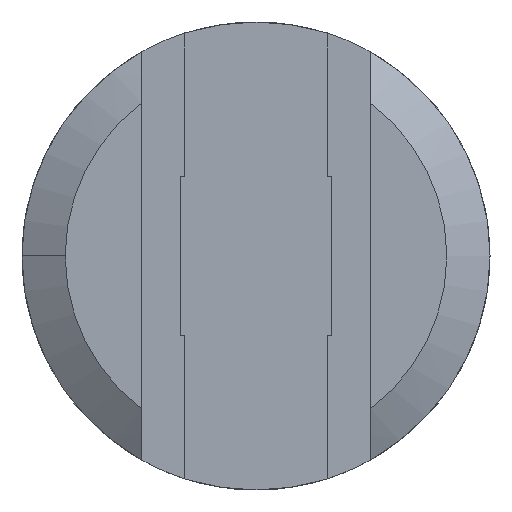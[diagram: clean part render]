
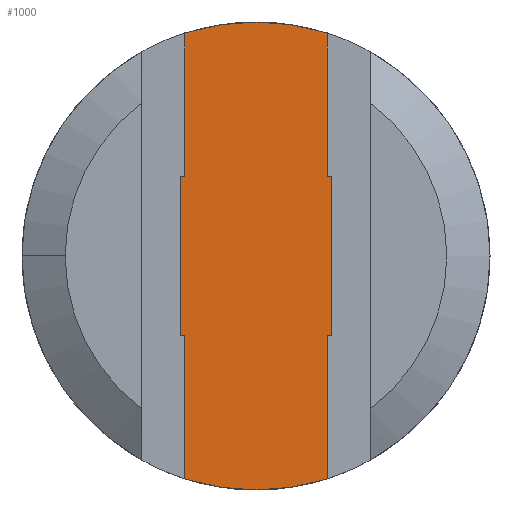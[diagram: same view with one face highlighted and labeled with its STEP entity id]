
A CAD part, top view. The second image highlights one B-rep face of the part: STEP entity #1000.
In plain terms, the highlighted planar face has unit normal (0, 0, 1).
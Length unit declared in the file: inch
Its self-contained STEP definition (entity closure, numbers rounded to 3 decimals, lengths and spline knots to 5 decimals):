
#86=CARTESIAN_POINT('',(0.,0.,0.3));
#87=DIRECTION('',(0.,0.,1.));
#88=DIRECTION('',(0.304,0.953,0.));
#89=AXIS2_PLACEMENT_3D('',#86,#87,#88);
#190=CARTESIAN_POINT('',(0.,0.,0.3));
#191=DIRECTION('',(0.,0.,1.));
#192=DIRECTION('',(-0.304,-0.953,0.));
#193=AXIS2_PLACEMENT_3D('',#190,#191,#192);
#269=DIRECTION('',(0.,1.,0.));
#270=VECTOR('',#269,0.49913);
#271=CARTESIAN_POINT('',(0.24675,0.275,
0.3));
#272=LINE('',#271,#270);
#273=DIRECTION('',(-1.,0.,0.));
#274=VECTOR('',#273,0.01625);
#275=CARTESIAN_POINT('',(0.263,0.275,0.3));
#276=LINE('',#275,#274);
#277=DIRECTION('',(0.,1.,0.));
#278=VECTOR('',#277,0.55);
#279=CARTESIAN_POINT('',(0.263,-0.275,0.3));
#280=LINE('',#279,#278);
#281=DIRECTION('',(1.,0.,0.));
#282=VECTOR('',#281,0.01625);
#283=CARTESIAN_POINT('',(0.24675,-0.275,
0.3));
#284=LINE('',#283,#282);
#285=DIRECTION('',(0.,1.,0.));
#286=VECTOR('',#285,0.49913);
#287=CARTESIAN_POINT('',(0.24675,-0.77413,
0.3));
#288=LINE('',#287,#286);
#289=DIRECTION('',(0.,1.,0.));
#290=VECTOR('',#289,0.55);
#291=CARTESIAN_POINT('',(-0.263,-0.275,0.3));
#292=LINE('',#291,#290);
#293=DIRECTION('',(0.,1.,0.));
#294=VECTOR('',#293,0.49913);
#295=CARTESIAN_POINT('',(-0.24675,0.275,
0.3));
#296=LINE('',#295,#294);
#331=DIRECTION('',(1.,0.,0.));
#332=VECTOR('',#331,0.01625);
#333=CARTESIAN_POINT('',(-0.263,0.275,0.3));
#334=LINE('',#333,#332);
#343=DIRECTION('',(-1.,0.,0.));
#344=VECTOR('',#343,0.01625);
#345=CARTESIAN_POINT('',(-0.24675,-0.275,
0.3));
#346=LINE('',#345,#344);
#351=DIRECTION('',(0.,1.,0.));
#352=VECTOR('',#351,0.49913);
#353=CARTESIAN_POINT('',(-0.24675,-0.77413,
0.3));
#354=LINE('',#353,#352);
#555=CARTESIAN_POINT('',(0.24675,0.77413,
0.3));
#557=VERTEX_POINT('',#555);
#560=CARTESIAN_POINT('',(-0.24675,0.77413,
0.3));
#562=VERTEX_POINT('',#560);
#597=CARTESIAN_POINT('',(-0.24675,-0.77413,
0.3));
#599=VERTEX_POINT('',#597);
#602=CARTESIAN_POINT('',(0.24675,-0.77413,
0.3));
#604=VERTEX_POINT('',#602);
#613=CARTESIAN_POINT('',(0.24675,0.275,
0.3));
#614=VERTEX_POINT('',#613);
#615=CARTESIAN_POINT('',(0.263,0.275,0.3));
#616=VERTEX_POINT('',#615);
#617=CARTESIAN_POINT('',(0.263,-0.275,0.3));
#618=VERTEX_POINT('',#617);
#619=CARTESIAN_POINT('',(0.24675,-0.275,
0.3));
#620=VERTEX_POINT('',#619);
#621=CARTESIAN_POINT('',(-0.24675,0.275,
0.3));
#622=VERTEX_POINT('',#621);
#631=CARTESIAN_POINT('',(-0.263,0.275,0.3));
#632=VERTEX_POINT('',#631);
#633=CARTESIAN_POINT('',(-0.263,-0.275,0.3));
#634=VERTEX_POINT('',#633);
#635=CARTESIAN_POINT('',(-0.24675,-0.275,
0.3));
#636=VERTEX_POINT('',#635);
#972=CARTESIAN_POINT('',(0.,0.,0.3));
#973=DIRECTION('',(0.,0.,1.));
#974=DIRECTION('',(1.,0.,0.));
#975=AXIS2_PLACEMENT_3D('',#972,#973,#974);
#976=PLANE('',#975);
#978=ORIENTED_EDGE('',*,*,#977,.T.);
#979=ORIENTED_EDGE('',*,*,#786,.F.);
#981=ORIENTED_EDGE('',*,*,#980,.F.);
#983=ORIENTED_EDGE('',*,*,#982,.F.);
#985=ORIENTED_EDGE('',*,*,#984,.F.);
#987=ORIENTED_EDGE('',*,*,#986,.F.);
#988=ORIENTED_EDGE('',*,*,#958,.F.);
#989=ORIENTED_EDGE('',*,*,#857,.F.);
#991=ORIENTED_EDGE('',*,*,#990,.T.);
#993=ORIENTED_EDGE('',*,*,#992,.T.);
#995=ORIENTED_EDGE('',*,*,#994,.T.);
#997=ORIENTED_EDGE('',*,*,#996,.T.);
#998=EDGE_LOOP('',(#978,#979,#981,#983,#985,#987,#988,#989,#991,#993,#995,
#997));
#999=FACE_OUTER_BOUND('',#998,.F.);
#90=CIRCLE('',#89,0.8125);
#194=CIRCLE('',#193,0.8125);
#786=EDGE_CURVE('',#557,#562,#90,.T.);
#857=EDGE_CURVE('',#599,#604,#194,.T.);
#958=EDGE_CURVE('',#604,#620,#288,.T.);
#977=EDGE_CURVE('',#622,#562,#296,.T.);
#980=EDGE_CURVE('',#614,#557,#272,.T.);
#982=EDGE_CURVE('',#616,#614,#276,.T.);
#984=EDGE_CURVE('',#618,#616,#280,.T.);
#986=EDGE_CURVE('',#620,#618,#284,.T.);
#990=EDGE_CURVE('',#599,#636,#354,.T.);
#992=EDGE_CURVE('',#636,#634,#346,.T.);
#994=EDGE_CURVE('',#634,#632,#292,.T.);
#996=EDGE_CURVE('',#632,#622,#334,.T.);
#1000=ADVANCED_FACE('',(#999),#976,.T.);
